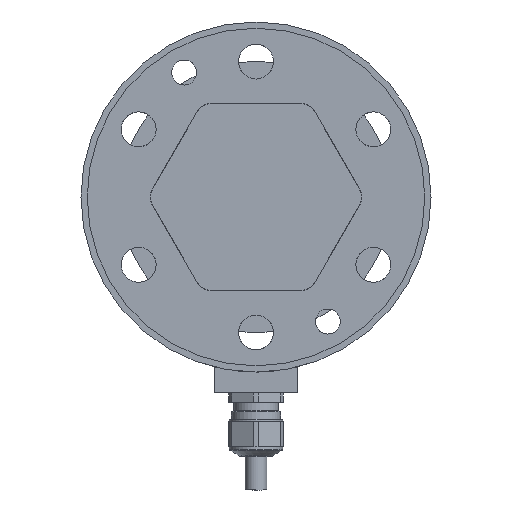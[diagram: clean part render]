
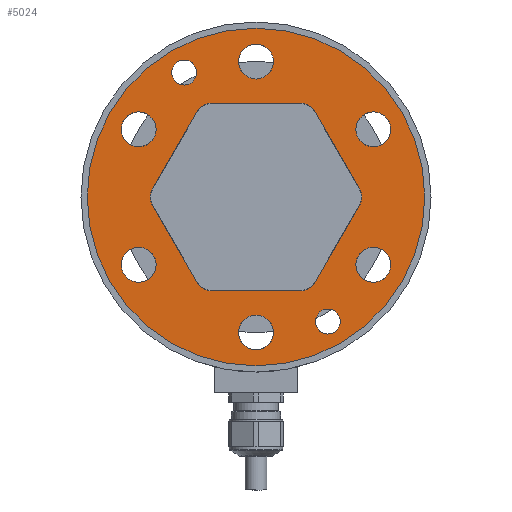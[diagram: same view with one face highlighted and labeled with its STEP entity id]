
A CAD part, front view. The second image highlights one B-rep face of the part: STEP entity #5024.
In plain terms, the highlighted planar face has unit normal (0, -1, 0).
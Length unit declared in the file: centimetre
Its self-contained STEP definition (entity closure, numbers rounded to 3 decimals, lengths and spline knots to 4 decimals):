
#285=VECTOR('',#6073,1.);
#289=VECTOR('',#6084,1.);
#293=VECTOR('',#6095,1.);
#297=VECTOR('',#6106,1.);
#301=VECTOR('',#6117,1.);
#313=VECTOR('',#6216,1.);
#604=LINE('',#7688,#285);
#608=LINE('',#7700,#289);
#612=LINE('',#7712,#293);
#616=LINE('',#7724,#297);
#620=LINE('',#7736,#301);
#632=LINE('',#7812,#313);
#1644=PLANE('',#5375);
#1766=CIRCLE('',#5307,0.4);
#1768=CIRCLE('',#5311,0.4);
#1770=CIRCLE('',#5315,0.4);
#1772=CIRCLE('',#5319,0.4);
#1774=CIRCLE('',#5323,0.4);
#1776=CIRCLE('',#5327,0.4);
#1790=CIRCLE('',#5355,0.3);
#1791=CIRCLE('',#5357,0.3);
#1792=CIRCLE('',#5359,0.4188);
#1793=CIRCLE('',#5361,0.4188);
#1794=CIRCLE('',#5363,0.4188);
#1795=CIRCLE('',#5365,0.4188);
#1796=CIRCLE('',#5367,0.4188);
#1797=CIRCLE('',#5369,0.4188);
#1799=CIRCLE('',#5374,4.05);
#2108=VERTEX_POINT('',#7679);
#2109=VERTEX_POINT('',#7681);
#2111=VERTEX_POINT('',#7687);
#2113=VERTEX_POINT('',#7693);
#2115=VERTEX_POINT('',#7699);
#2117=VERTEX_POINT('',#7705);
#2119=VERTEX_POINT('',#7711);
#2121=VERTEX_POINT('',#7717);
#2123=VERTEX_POINT('',#7723);
#2125=VERTEX_POINT('',#7729);
#2127=VERTEX_POINT('',#7735);
#2129=VERTEX_POINT('',#7741);
#2138=VERTEX_POINT('',#7789);
#2139=VERTEX_POINT('',#7792);
#2140=VERTEX_POINT('',#7795);
#2141=VERTEX_POINT('',#7798);
#2142=VERTEX_POINT('',#7801);
#2143=VERTEX_POINT('',#7804);
#2144=VERTEX_POINT('',#7807);
#2145=VERTEX_POINT('',#7810);
#2147=VERTEX_POINT('',#7818);
#2629=EDGE_CURVE('',#2108,#2109,#1766,.T.);
#2633=EDGE_CURVE('',#2108,#2111,#604,.T.);
#2636=EDGE_CURVE('',#2113,#2111,#1768,.T.);
#2639=EDGE_CURVE('',#2113,#2115,#608,.T.);
#2642=EDGE_CURVE('',#2117,#2115,#1770,.T.);
#2645=EDGE_CURVE('',#2117,#2119,#612,.T.);
#2648=EDGE_CURVE('',#2121,#2119,#1772,.T.);
#2651=EDGE_CURVE('',#2121,#2123,#616,.T.);
#2654=EDGE_CURVE('',#2125,#2123,#1774,.T.);
#2657=EDGE_CURVE('',#2125,#2127,#620,.T.);
#2660=EDGE_CURVE('',#2129,#2127,#1776,.T.);
#2698=EDGE_CURVE('',#2138,#2138,#1790,.T.);
#2699=EDGE_CURVE('',#2139,#2139,#1791,.T.);
#2700=EDGE_CURVE('',#2140,#2140,#1792,.T.);
#2701=EDGE_CURVE('',#2141,#2141,#1793,.T.);
#2702=EDGE_CURVE('',#2142,#2142,#1794,.T.);
#2703=EDGE_CURVE('',#2143,#2143,#1795,.T.);
#2704=EDGE_CURVE('',#2144,#2144,#1796,.T.);
#2705=EDGE_CURVE('',#2145,#2145,#1797,.T.);
#2706=EDGE_CURVE('',#2129,#2109,#632,.T.);
#2708=EDGE_CURVE('',#2147,#2147,#1799,.T.);
#3577=ORIENTED_EDGE('',*,*,#2698,.T.);
#3578=ORIENTED_EDGE('',*,*,#2699,.T.);
#3579=ORIENTED_EDGE('',*,*,#2700,.T.);
#3580=ORIENTED_EDGE('',*,*,#2701,.T.);
#3581=ORIENTED_EDGE('',*,*,#2702,.T.);
#3582=ORIENTED_EDGE('',*,*,#2703,.T.);
#3583=ORIENTED_EDGE('',*,*,#2704,.T.);
#3584=ORIENTED_EDGE('',*,*,#2705,.T.);
#3585=ORIENTED_EDGE('',*,*,#2706,.T.);
#3586=ORIENTED_EDGE('',*,*,#2629,.F.);
#3587=ORIENTED_EDGE('',*,*,#2633,.T.);
#3588=ORIENTED_EDGE('',*,*,#2636,.F.);
#3589=ORIENTED_EDGE('',*,*,#2639,.T.);
#3590=ORIENTED_EDGE('',*,*,#2642,.F.);
#3591=ORIENTED_EDGE('',*,*,#2645,.T.);
#3592=ORIENTED_EDGE('',*,*,#2648,.F.);
#3593=ORIENTED_EDGE('',*,*,#2651,.T.);
#3594=ORIENTED_EDGE('',*,*,#2654,.F.);
#3595=ORIENTED_EDGE('',*,*,#2657,.T.);
#3596=ORIENTED_EDGE('',*,*,#2660,.F.);
#3597=ORIENTED_EDGE('',*,*,#2708,.F.);
#4251=EDGE_LOOP('',(#3577));
#4252=EDGE_LOOP('',(#3578));
#4253=EDGE_LOOP('',(#3579));
#4254=EDGE_LOOP('',(#3580));
#4255=EDGE_LOOP('',(#3581));
#4256=EDGE_LOOP('',(#3582));
#4257=EDGE_LOOP('',(#3583));
#4258=EDGE_LOOP('',(#3584));
#4259=EDGE_LOOP('',(#3585,#3586,#3587,#3588,#3589,#3590,#3591,#3592,#3593,
#3594,#3595,#3596));
#4260=EDGE_LOOP('',(#3597));
#4656=FACE_BOUND('',#4251,.T.);
#4657=FACE_BOUND('',#4252,.T.);
#4658=FACE_BOUND('',#4253,.T.);
#4659=FACE_BOUND('',#4254,.T.);
#4660=FACE_BOUND('',#4255,.T.);
#4661=FACE_BOUND('',#4256,.T.);
#4662=FACE_BOUND('',#4257,.T.);
#4663=FACE_BOUND('',#4258,.T.);
#4664=FACE_BOUND('',#4259,.T.);
#4665=FACE_BOUND('',#4260,.T.);
#5024=ADVANCED_FACE('',(#4656,#4657,#4658,#4659,#4660,#4661,#4662,#4663,
#4664,#4665),#1644,.T.);
#5307=AXIS2_PLACEMENT_3D('',#7680,#6067,#6068);
#5311=AXIS2_PLACEMENT_3D('',#7694,#6079,#6080);
#5315=AXIS2_PLACEMENT_3D('',#7706,#6090,#6091);
#5319=AXIS2_PLACEMENT_3D('',#7718,#6101,#6102);
#5323=AXIS2_PLACEMENT_3D('',#7730,#6112,#6113);
#5327=AXIS2_PLACEMENT_3D('',#7742,#6123,#6124);
#5355=AXIS2_PLACEMENT_3D('',#7788,#6185,#6186);
#5357=AXIS2_PLACEMENT_3D('',#7791,#6189,#6190);
#5359=AXIS2_PLACEMENT_3D('',#7794,#6193,#6194);
#5361=AXIS2_PLACEMENT_3D('',#7797,#6197,#6198);
#5363=AXIS2_PLACEMENT_3D('',#7800,#6201,#6202);
#5365=AXIS2_PLACEMENT_3D('',#7803,#6205,#6206);
#5367=AXIS2_PLACEMENT_3D('',#7806,#6209,#6210);
#5369=AXIS2_PLACEMENT_3D('',#7809,#6213,#6214);
#5374=AXIS2_PLACEMENT_3D('',#7817,#6222,#6223);
#5375=AXIS2_PLACEMENT_3D('',#7819,#6224,$);
#6067=DIRECTION('',(0.,-1.,0.));
#6068=DIRECTION('',(0.2,0.,0.346));
#6073=DIRECTION('',(0.5,0.,-0.866));
#6079=DIRECTION('',(0.,-1.,0.));
#6080=DIRECTION('',(0.4,0.,0.));
#6084=DIRECTION('',(-0.5,0.,-0.866));
#6090=DIRECTION('',(0.,-1.,0.));
#6091=DIRECTION('',(0.2,0.,-0.346));
#6095=DIRECTION('',(-1.,0.,0.));
#6101=DIRECTION('',(0.,-1.,0.));
#6102=DIRECTION('',(-0.2,0.,-0.346));
#6106=DIRECTION('',(-0.5,0.,0.866));
#6112=DIRECTION('',(0.,-1.,0.));
#6113=DIRECTION('',(-0.4,0.,0.));
#6117=DIRECTION('',(0.5,0.,0.866));
#6123=DIRECTION('',(0.,-1.,0.));
#6124=DIRECTION('',(-0.2,0.,0.346));
#6185=DIRECTION('',(0.,1.,0.));
#6186=DIRECTION('',(0.,0.,0.3));
#6189=DIRECTION('',(0.,1.,0.));
#6190=DIRECTION('',(0.,0.,0.3));
#6193=DIRECTION('',(0.,1.,0.));
#6194=DIRECTION('',(0.,0.,0.419));
#6197=DIRECTION('',(0.,1.,0.));
#6198=DIRECTION('',(0.,0.,0.419));
#6201=DIRECTION('',(0.,1.,0.));
#6202=DIRECTION('',(0.,0.,0.419));
#6205=DIRECTION('',(0.,1.,0.));
#6206=DIRECTION('',(0.,0.,0.419));
#6209=DIRECTION('',(0.,1.,0.));
#6210=DIRECTION('',(0.,0.,0.419));
#6213=DIRECTION('',(0.,1.,0.));
#6214=DIRECTION('',(0.,0.,0.419));
#6216=DIRECTION('',(1.,0.,0.));
#6222=DIRECTION('',(0.,1.,0.));
#6223=DIRECTION('',(4.05,0.,0.));
#6224=DIRECTION('',(0.,-1.,0.));
#7679=CARTESIAN_POINT('',(1.4145,-3.2,2.05));
#7680=CARTESIAN_POINT('',(1.0681,-3.2,1.85));
#7681=CARTESIAN_POINT('',(1.0681,-3.2,2.25));
#7687=CARTESIAN_POINT('',(2.4826,-3.2,0.2));
#7688=CARTESIAN_POINT('',(1.9486,-3.2,1.125));
#7693=CARTESIAN_POINT('',(2.4826,-3.2,-0.2));
#7694=CARTESIAN_POINT('',(2.1362,-3.2,0.));
#7699=CARTESIAN_POINT('',(1.4145,-3.2,-2.05));
#7700=CARTESIAN_POINT('',(1.9486,-3.2,-1.125));
#7705=CARTESIAN_POINT('',(1.0681,-3.2,-2.25));
#7706=CARTESIAN_POINT('',(1.0681,-3.2,-1.85));
#7711=CARTESIAN_POINT('',(-1.0681,-3.2,-2.25));
#7712=CARTESIAN_POINT('',(0.,-3.2,-2.25));
#7717=CARTESIAN_POINT('',(-1.4145,-3.2,-2.05));
#7718=CARTESIAN_POINT('',(-1.0681,-3.2,-1.85));
#7723=CARTESIAN_POINT('',(-2.4826,-3.2,-0.2));
#7724=CARTESIAN_POINT('',(-1.9486,-3.2,-1.125));
#7729=CARTESIAN_POINT('',(-2.4826,-3.2,0.2));
#7730=CARTESIAN_POINT('',(-2.1362,-3.2,0.));
#7735=CARTESIAN_POINT('',(-1.4145,-3.2,2.05));
#7736=CARTESIAN_POINT('',(-1.9486,-3.2,1.125));
#7741=CARTESIAN_POINT('',(-1.0681,-3.2,2.25));
#7742=CARTESIAN_POINT('',(-1.0681,-3.2,1.85));
#7788=CARTESIAN_POINT('',(1.725,-3.2,-2.9878));
#7789=CARTESIAN_POINT('',(1.725,-3.2,-2.6878));
#7791=CARTESIAN_POINT('',(-1.725,-3.2,2.9878));
#7792=CARTESIAN_POINT('',(-1.725,-3.2,3.2878));
#7794=CARTESIAN_POINT('',(-2.8146,-3.2,1.625));
#7795=CARTESIAN_POINT('',(-2.8146,-3.2,2.0438));
#7797=CARTESIAN_POINT('',(-2.8146,-3.2,-1.625));
#7798=CARTESIAN_POINT('',(-2.8146,-3.2,-1.2062));
#7800=CARTESIAN_POINT('',(0.,-3.2,-3.25));
#7801=CARTESIAN_POINT('',(0.,-3.2,-2.8312));
#7803=CARTESIAN_POINT('',(2.8146,-3.2,-1.625));
#7804=CARTESIAN_POINT('',(2.8146,-3.2,-1.2062));
#7806=CARTESIAN_POINT('',(2.8146,-3.2,1.625));
#7807=CARTESIAN_POINT('',(2.8146,-3.2,2.0438));
#7809=CARTESIAN_POINT('',(0.,-3.2,3.25));
#7810=CARTESIAN_POINT('',(0.,-3.2,3.6688));
#7812=CARTESIAN_POINT('',(0.,-3.2,2.25));
#7817=CARTESIAN_POINT('',(0.,-3.2,0.));
#7818=CARTESIAN_POINT('',(4.05,-3.2,0.));
#7819=CARTESIAN_POINT('',(0.,-3.2,0.));
